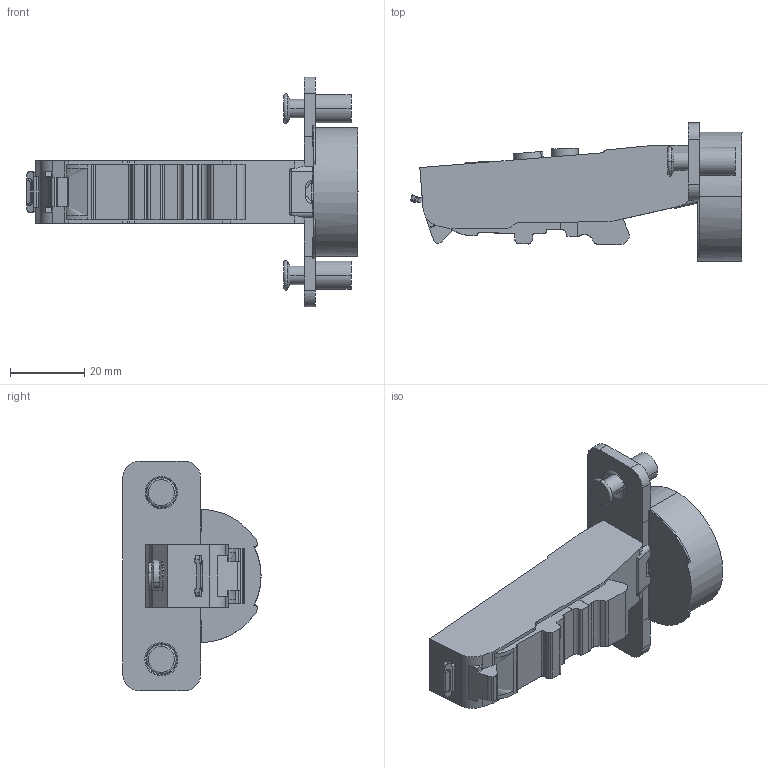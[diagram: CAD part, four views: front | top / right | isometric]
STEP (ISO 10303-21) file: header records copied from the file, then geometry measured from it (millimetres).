
FILE_DESCRIPTION (( 'STEP AP203' ), '1' );
FILE_NAME ('C81B875KFAB DTC 3D CLOSE.STEP', '2024-07-24T09:00:46', ( '微软用户' ), ( '微软中国' ), 'SwSTEP 2.0', 'SolidWorks 2021', '' );
FILE_SCHEMA (( 'CONFIG_CONTROL_DESIGN' ));
Length unit declared in the file: millimetre
Products named in the file (1): C81B875KFAB DTC 3D CLOSE
Bounding box: 89.61 x 37.33 x 62 mm (x, y, z)
Volume: 40487.1 mm3; surface area: 11842.2 mm2
Topology: 1 solids, 1 shells, 260 faces, 744 edges, 494 vertices
Faces by surface type: cylinder 114, plane 99, torus 24, bspline 15, cone 8
Entity records: 9285 total; most frequent: CARTESIAN_POINT 2497, ORIENTED_EDGE 1488, DIRECTION 1357, EDGE_CURVE 744, AXIS2_PLACEMENT_3D 502, VERTEX_POINT 494, VECTOR 353, LINE 353
